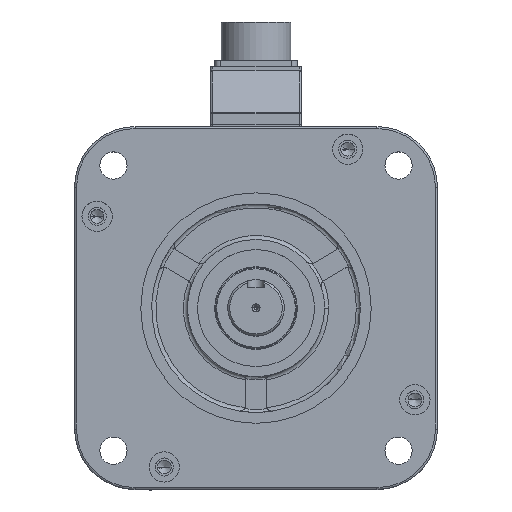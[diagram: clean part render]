
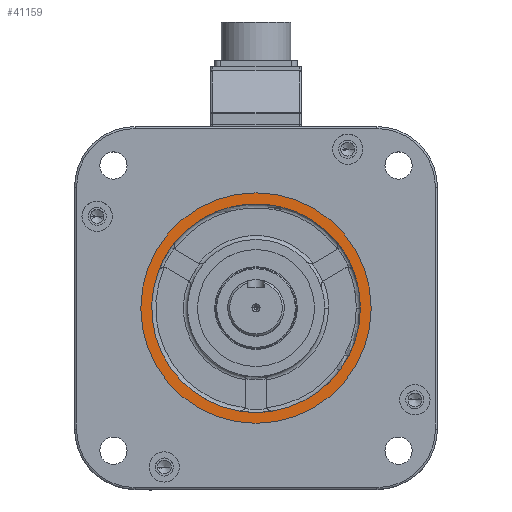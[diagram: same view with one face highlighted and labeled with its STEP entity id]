
A CAD part, top view. The second image highlights one B-rep face of the part: STEP entity #41159.
In plain terms, the highlighted planar face has unit normal (0, 0, 1).
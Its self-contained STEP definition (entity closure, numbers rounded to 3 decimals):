
#901 = CIRCLE ( 'NONE', #52522, 51.75 ) ;
#1990 = DIRECTION ( 'NONE',  ( 1., 0., 0. ) ) ;
#2737 = CARTESIAN_POINT ( 'NONE',  ( 51.75, 0., 21. ) ) ;
#3090 = AXIS2_PLACEMENT_3D ( 'NONE', #46560, #32190, #55530 ) ;
#3997 = CARTESIAN_POINT ( 'NONE',  ( 0., 0., 21. ) ) ;
#4334 = EDGE_CURVE ( 'NONE', #58604, #50790, #901, .T. ) ;
#4686 = CARTESIAN_POINT ( 'NONE',  ( 0., 0., 21. ) ) ;
#4985 = CIRCLE ( 'NONE', #57568, 57.15 ) ;
#5369 = EDGE_CURVE ( 'NONE', #18824, #20002, #54390, .T. ) ;
#5389 = AXIS2_PLACEMENT_3D ( 'NONE', #3997, #53394, #49200 ) ;
#5798 = AXIS2_PLACEMENT_3D ( 'NONE', #24229, #38855, #38578 ) ;
#6150 = CARTESIAN_POINT ( 'NONE',  ( 0., 0., 21. ) ) ;
#6515 = CARTESIAN_POINT ( 'NONE',  ( 8.492, -51.048, 21. ) ) ;
#6858 = VERTEX_POINT ( 'NONE', #38013 ) ;
#6924 = CARTESIAN_POINT ( 'NONE',  ( 0., 0., 21. ) ) ;
#9184 = CIRCLE ( 'NONE', #42702, 51.75 ) ;
#9218 = ORIENTED_EDGE ( 'NONE', *, *, #24091, .F. ) ;
#10939 = DIRECTION ( 'NONE',  ( 1., 0., 0. ) ) ;
#11199 = CARTESIAN_POINT ( 'NONE',  ( 57.15, 0., 21. ) ) ;
#15998 = DIRECTION ( 'NONE',  ( 0., 0., 1. ) ) ;
#18168 = AXIS2_PLACEMENT_3D ( 'NONE', #40108, #58372, #53281 ) ;
#18764 = DIRECTION ( 'NONE',  ( 1., 0., 0. ) ) ;
#18824 = VERTEX_POINT ( 'NONE', #11199 ) ;
#18999 = PLANE ( 'NONE',  #3090 ) ;
#19161 = CIRCLE ( 'NONE', #5798, 51.75 ) ;
#19654 = ORIENTED_EDGE ( 'NONE', *, *, #51680, .F. ) ;
#20002 = VERTEX_POINT ( 'NONE', #52816 ) ;
#21367 = EDGE_LOOP ( 'NONE', ( #36925, #40737 ) ) ;
#21717 = EDGE_CURVE ( 'NONE', #6858, #58604, #58033, .T. ) ;
#22769 = CARTESIAN_POINT ( 'NONE',  ( 0., 0., 21. ) ) ;
#23268 = CARTESIAN_POINT ( 'NONE',  ( 0., 0., 21. ) ) ;
#23376 = DIRECTION ( 'NONE',  ( 1., 0., 0. ) ) ;
#23666 = DIRECTION ( 'NONE',  ( 0., 0., 1. ) ) ;
#24091 = EDGE_CURVE ( 'NONE', #57022, #40159, #46878, .T. ) ;
#24229 = CARTESIAN_POINT ( 'NONE',  ( 0., 0., 21. ) ) ;
#24344 = EDGE_CURVE ( 'NONE', #31776, #55084, #19161, .T. ) ;
#25229 = CIRCLE ( 'NONE', #45325, 51.75 ) ;
#25458 = CIRCLE ( 'NONE', #5389, 51.75 ) ;
#26952 = ORIENTED_EDGE ( 'NONE', *, *, #34518, .F. ) ;
#28270 = CARTESIAN_POINT ( 'NONE',  ( 39.963, 32.879, 21. ) ) ;
#28654 = DIRECTION ( 'NONE',  ( 0., 0., 1. ) ) ;
#29234 = CARTESIAN_POINT ( 'NONE',  ( 0., 0., 21. ) ) ;
#30826 = CARTESIAN_POINT ( 'NONE',  ( -48.455, 18.17, 21. ) ) ;
#31284 = AXIS2_PLACEMENT_3D ( 'NONE', #4686, #44806, #32230 ) ;
#31776 = VERTEX_POINT ( 'NONE', #6515 ) ;
#32190 = DIRECTION ( 'NONE',  ( 0., 0., 1. ) ) ;
#32230 = DIRECTION ( 'NONE',  ( 1., 0., 0. ) ) ;
#32492 = FACE_OUTER_BOUND ( 'NONE', #21367, .T. ) ;
#32512 = ORIENTED_EDGE ( 'NONE', *, *, #4334, .F. ) ;
#32856 = ORIENTED_EDGE ( 'NONE', *, *, #24344, .F. ) ;
#34518 = EDGE_CURVE ( 'NONE', #40159, #6858, #9184, .T. ) ;
#36925 = ORIENTED_EDGE ( 'NONE', *, *, #56405, .T. ) ;
#37719 = ORIENTED_EDGE ( 'NONE', *, *, #21717, .F. ) ;
#38013 = CARTESIAN_POINT ( 'NONE',  ( -39.963, 32.879, 21. ) ) ;
#38578 = DIRECTION ( 'NONE',  ( 1., 0., 0. ) ) ;
#38855 = DIRECTION ( 'NONE',  ( 0., 0., 1. ) ) ;
#39536 = DIRECTION ( 'NONE',  ( 0., 0., 1. ) ) ;
#40108 = CARTESIAN_POINT ( 'NONE',  ( 0., 0., 21. ) ) ;
#40159 = VERTEX_POINT ( 'NONE', #28270 ) ;
#40737 = ORIENTED_EDGE ( 'NONE', *, *, #5369, .T. ) ;
#41159 = ADVANCED_FACE ( 'NONE', ( #50424, #32492 ), #18999, .T. ) ;
#41528 = DIRECTION ( 'NONE',  ( 0., 0., 1. ) ) ;
#42622 = EDGE_CURVE ( 'NONE', #55084, #57022, #25458, .T. ) ;
#42702 = AXIS2_PLACEMENT_3D ( 'NONE', #6150, #15998, #10939 ) ;
#43474 = EDGE_LOOP ( 'NONE', ( #9218, #46749, #32856, #19654, #32512, #37719, #26952 ) ) ;
#44806 = DIRECTION ( 'NONE',  ( 0., 0., 1. ) ) ;
#44889 = CARTESIAN_POINT ( 'NONE',  ( -8.492, -51.048, 21. ) ) ;
#45325 = AXIS2_PLACEMENT_3D ( 'NONE', #23268, #41528, #18764 ) ;
#46560 = CARTESIAN_POINT ( 'NONE',  ( 0., 0., 21. ) ) ;
#46749 = ORIENTED_EDGE ( 'NONE', *, *, #42622, .F. ) ;
#46878 = CIRCLE ( 'NONE', #18168, 51.75 ) ;
#48230 = DIRECTION ( 'NONE',  ( 1., 0., 0. ) ) ;
#49200 = DIRECTION ( 'NONE',  ( 1., 0., 0. ) ) ;
#49654 = AXIS2_PLACEMENT_3D ( 'NONE', #6924, #39536, #48230 ) ;
#50424 = FACE_BOUND ( 'NONE', #43474, .T. ) ;
#50790 = VERTEX_POINT ( 'NONE', #44889 ) ;
#51680 = EDGE_CURVE ( 'NONE', #50790, #31776, #25229, .T. ) ;
#52522 = AXIS2_PLACEMENT_3D ( 'NONE', #29234, #28654, #1990 ) ;
#52816 = CARTESIAN_POINT ( 'NONE',  ( -57.15, 0., 21. ) ) ;
#53192 = CARTESIAN_POINT ( 'NONE',  ( 48.455, 18.17, 21. ) ) ;
#53281 = DIRECTION ( 'NONE',  ( 1., 0., 0. ) ) ;
#53394 = DIRECTION ( 'NONE',  ( 0., 0., 1. ) ) ;
#54390 = CIRCLE ( 'NONE', #49654, 57.15 ) ;
#55084 = VERTEX_POINT ( 'NONE', #2737 ) ;
#55530 = DIRECTION ( 'NONE',  ( 1., 0., 0. ) ) ;
#56405 = EDGE_CURVE ( 'NONE', #20002, #18824, #4985, .T. ) ;
#57022 = VERTEX_POINT ( 'NONE', #53192 ) ;
#57568 = AXIS2_PLACEMENT_3D ( 'NONE', #22769, #23666, #23376 ) ;
#58033 = CIRCLE ( 'NONE', #31284, 51.75 ) ;
#58372 = DIRECTION ( 'NONE',  ( 0., 0., 1. ) ) ;
#58604 = VERTEX_POINT ( 'NONE', #30826 ) ;
